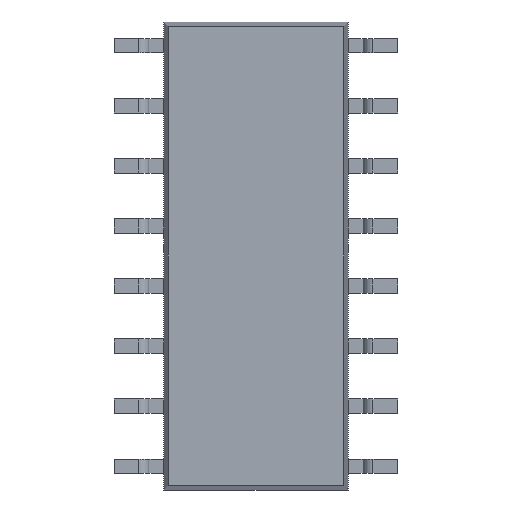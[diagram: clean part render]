
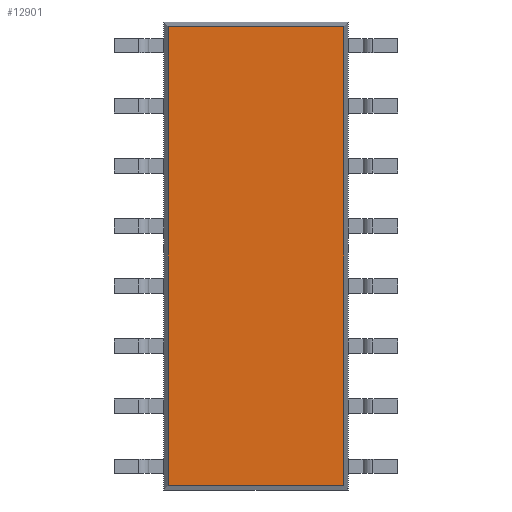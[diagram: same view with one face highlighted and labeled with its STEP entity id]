
A CAD part, front view. The second image highlights one B-rep face of the part: STEP entity #12901.
In plain terms, the highlighted planar face has unit normal (0, -1, 0).
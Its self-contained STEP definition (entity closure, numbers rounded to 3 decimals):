
#1832=FACE_OUTER_BOUND('',#2536,.T.);
#2536=EDGE_LOOP('',(#11849,#11850,#11851,#11852));
#3761=LINE('',#22559,#4994);
#3771=LINE('',#22578,#5004);
#3773=LINE('',#22582,#5006);
#3774=LINE('',#22583,#5007);
#4994=VECTOR('',#15343,1.);
#5004=VECTOR('',#15361,1.);
#5006=VECTOR('',#15365,1.);
#5007=VECTOR('',#15366,1.);
#6252=VERTEX_POINT('',#22556);
#6253=VERTEX_POINT('',#22558);
#6258=VERTEX_POINT('',#22577);
#6259=VERTEX_POINT('',#22581);
#8115=EDGE_CURVE('',#6252,#6253,#3761,.T.);
#8125=EDGE_CURVE('',#6253,#6258,#3771,.T.);
#8127=EDGE_CURVE('',#6252,#6259,#3773,.T.);
#8128=EDGE_CURVE('',#6259,#6258,#3774,.T.);
#11849=ORIENTED_EDGE('',*,*,#8127,.T.);
#11850=ORIENTED_EDGE('',*,*,#8128,.T.);
#11851=ORIENTED_EDGE('',*,*,#8125,.F.);
#11852=ORIENTED_EDGE('',*,*,#8115,.F.);
#12233=PLANE('',#13351);
#12901=ADVANCED_FACE('',(#1832),#12233,.F.);
#13351=AXIS2_PLACEMENT_3D('',#22580,#15363,#15364);
#15343=DIRECTION('',(0.,0.,-1.));
#15361=DIRECTION('',(-1.,0.,0.));
#15363=DIRECTION('center_axis',(0.,1.,0.));
#15364=DIRECTION('ref_axis',(0.,0.,1.));
#15365=DIRECTION('',(-1.,0.,0.));
#15366=DIRECTION('',(0.,0.,-1.));
#22556=CARTESIAN_POINT('',(1.854,0.175,4.854));
#22558=CARTESIAN_POINT('',(1.854,0.175,-4.854));
#22559=CARTESIAN_POINT('',(1.854,0.175,10.864));
#22577=CARTESIAN_POINT('',(-1.854,0.175,-4.854));
#22578=CARTESIAN_POINT('',(10.864,0.175,-4.854));
#22580=CARTESIAN_POINT('Origin',(0.,0.175,0.));
#22581=CARTESIAN_POINT('',(-1.854,0.175,4.854));
#22582=CARTESIAN_POINT('',(10.864,0.175,4.854));
#22583=CARTESIAN_POINT('',(-1.854,0.175,10.864));
